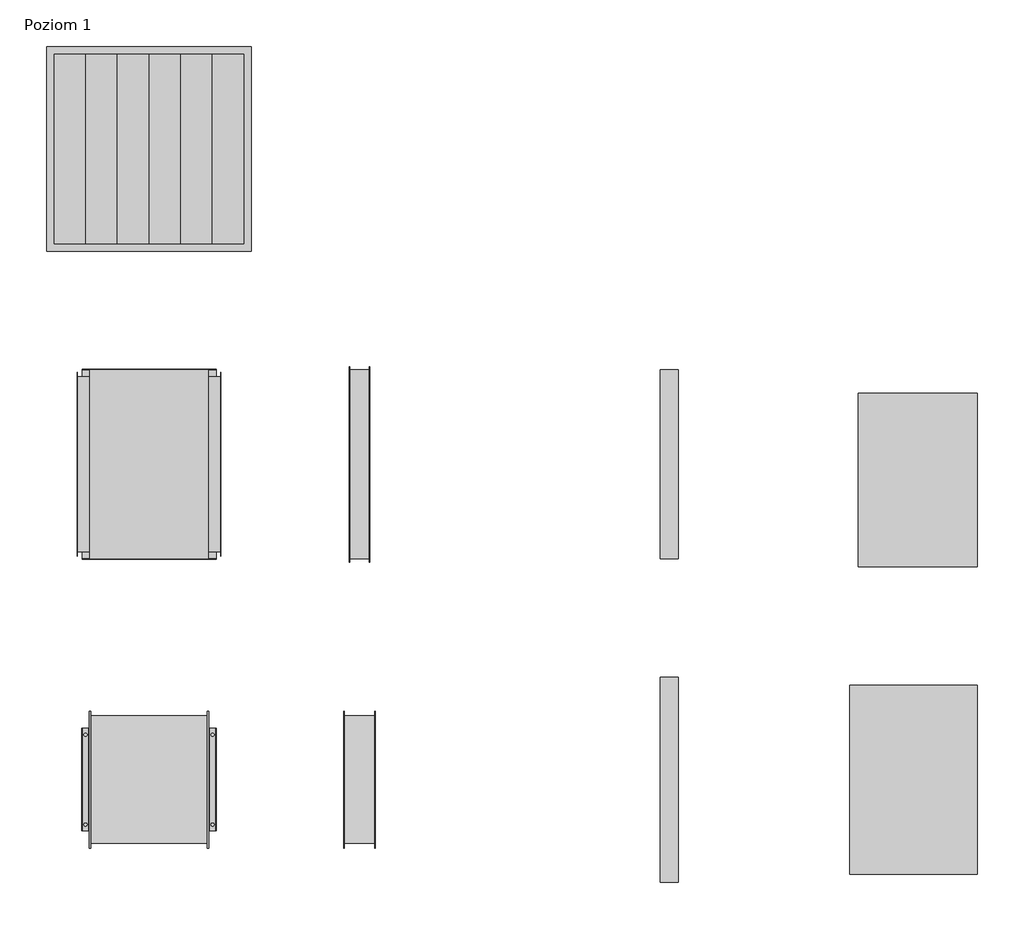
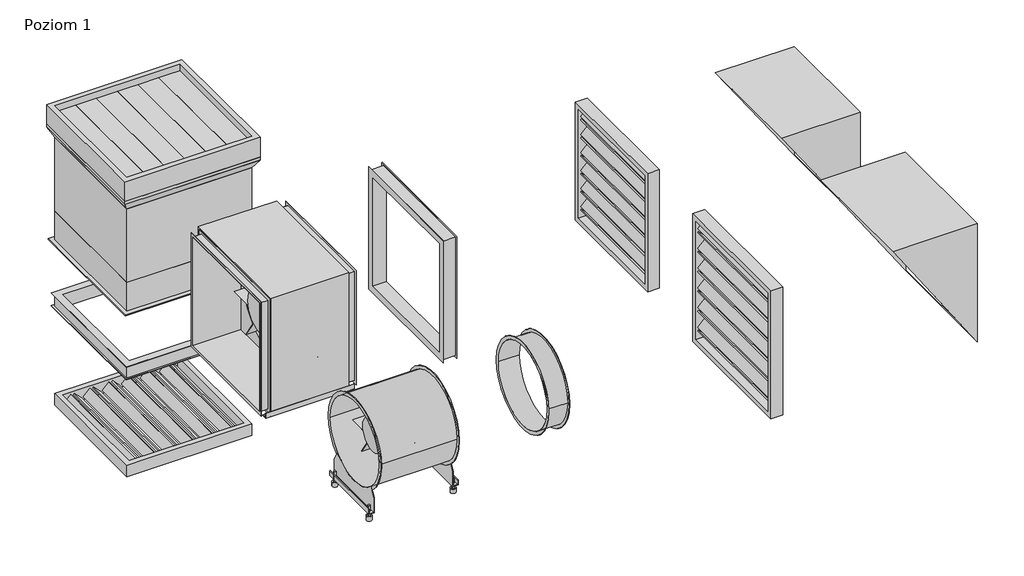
# One storey, incomplete: 5 dampers, 3 duct fittings, 3 proxies.
"""IFC4 building model written with IfcOpenShell, lengths in millimetres."""

from ifc_helpers import new_model, si_unit, origin, place, context, project, spatial, transform, mapped, element, save
from components import mechanical_equipment_a3e39775, mechanical_equipment_16e2f78e, mechanical_equipment_42d2660b, damper_6485f1b6, damper_d5a67774, damper_674d10c7, duct_fitting_7b086355, duct_fitting_f38d0a11, duct_fitting_ef36dd84

model = new_model("IFC4")

# Units and contexts
model_context = context("Model", 3, world=origin())
ifc_project = project(units=[si_unit("LENGTHUNIT", "METRE", prefix="MILLI")], contexts=[model_context])

# Site, building, storey
site = spatial("IfcSite", under=ifc_project)
building = spatial("IfcBuilding", under=site)
storey = spatial("IfcBuildingStorey", under=building, Name="Poziom 1", Elevation=0.0)

# Proxies
placement = place(None, origin())
mechanical_equipment_shape = mechanical_equipment_a3e39775(model_context)
element("IfcBuildingElementProxy", 1, Name="MERCOR - mcr EXi-F - obudowa skrzynkowa – montaż pionowy z klapą mcr LAM : mcr EXi-F 100-1S", ObjectType="MERCOR - mcr EXi-F - obudowa skrzynkowa – montaż pionowy z klapą mcr LAM : mcr EXi-F 100-1S", at=placement, inside=storey, context=model_context, shape_type="MappedRepresentation", body=[
    mapped(mechanical_equipment_shape, transform((-17136.9387308, 1768.0791322, 0.0), x_axis=(1.0, 0.0, 0.0), y_axis=(0.0, 1.0, 0.0), z_axis=(0.0, 0.0, 1.0))),
])
mechanical_equipment_2_shape = mechanical_equipment_16e2f78e(model_context)
element("IfcBuildingElementProxy", 2, Name="MERCOR - mcr EXi-F - obudowa skrzynkowa : mcr EXi-F 100-1S", ObjectType="MERCOR - mcr EXi-F - obudowa skrzynkowa : mcr EXi-F 100-1S", at=placement, inside=storey, context=model_context, shape_type="MappedRepresentation", body=[
    mapped(mechanical_equipment_2_shape, transform((-17136.9387308, -231.9208678, 0.0), x_axis=(1.0, 0.0, 0.0), y_axis=(0.0, 1.0, 0.0), z_axis=(0.0, 0.0, 1.0))),
])
mechanical_equipment_3_shape = mechanical_equipment_42d2660b(model_context)
element("IfcBuildingElementProxy", 3, Name="MERCOR - mcr EXi-F - obudowa walcowa : mcr EXi-F 80-1M", ObjectType="MERCOR - mcr EXi-F - obudowa walcowa : mcr EXi-F 80-1M", at=placement, inside=storey, context=model_context, shape_type="MappedRepresentation", body=[
    mapped(mechanical_equipment_3_shape, transform((-17136.9387308, -2231.9208678, 0.0), x_axis=(1.0, 0.0, 0.0), y_axis=(0.0, 1.0, 0.0), z_axis=(0.0, 0.0, 1.0))),
])

# Dampers
damper_shape = damper_6485f1b6(model_context)
element("IfcDamper", 4, ObjectType="MERCOR - Połączenie elastyczne do obudowy skrzynkowej : Połączenie elastyczne do układu mcr EXi-F 100-1S", at=placement, inside=storey, context=model_context, shape_type="MappedRepresentation", body=[
    mapped(damper_shape, transform((-15801.9387308, -231.9208678, 0.0), x_axis=(1.0, 0.0, 0.0), y_axis=(0.0, 1.0, 0.0), z_axis=(0.0, 0.0, 1.0))),
])
element("IfcDamper", 5, ObjectType="MERCOR - Połączenie elastyczne do obudowy skrzynkowej : Połączenie elastyczne do układu mcr EXi-F 100-1S", at=placement, inside=storey, context=model_context, shape_type="MappedRepresentation", body=[
    mapped(damper_shape, transform((-17136.9387308, 1768.0791322, -1277.5), x_axis=(0.0, 0.0, -1.0), y_axis=(0.0, 1.0, 0.0), z_axis=(1.0, 0.0, 0.0))),
])
damper_2_shape = damper_d5a67774(model_context)
element("IfcDamper", 6, ObjectType="MERCOR - Przepustnica : Przepustnica do układu mcr EXi-F 100-1S - obudowa skrzynkowa", at=placement, inside=storey, context=model_context, shape_type="MappedRepresentation", body=[
    mapped(damper_2_shape, transform((-13836.9387308, -231.9208678, 0.0), x_axis=(1.0, 0.0, 0.0), y_axis=(0.0, 1.0, 0.0), z_axis=(0.0, 0.0, 1.0))),
])
element("IfcDamper", 7, ObjectType="MERCOR - Przepustnica : Przepustnica do układu mcr EXi-F 100-1S - obudowa skrzynkowa", at=placement, inside=storey, context=model_context, shape_type="MappedRepresentation", body=[
    mapped(damper_2_shape, transform((-17136.9387308, 1768.0791322, -2287.5), x_axis=(0.0, 0.0, -1.0), y_axis=(0.0, 1.0, 0.0), z_axis=(1.0, 0.0, 0.0))),
])
damper_3_shape = damper_674d10c7(model_context)
element("IfcDamper", 8, ObjectType="MERCOR - Przepustnica : Przepustnica do układu mcr EXi-F 80-1M - obudowa walcowa", at=placement, inside=storey, context=model_context, shape_type="MappedRepresentation", body=[
    mapped(damper_3_shape, transform((-13836.9387308, -2231.9208678, 0.0), x_axis=(1.0, 0.0, 0.0), y_axis=(0.0, 1.0, 0.0), z_axis=(0.0, 0.0, 1.0))),
])

# Duct fittings
duct_fitting_shape = duct_fitting_7b086355(model_context)
element("IfcDuctFitting", 9, ObjectType="MERCOR - Czerpnia do obudowy skrzynkowej : Czerpnia do układu mcr EXi-F 100-1S", at=placement, inside=storey, context=model_context, shape_type="MappedRepresentation", body=[
    mapped(duct_fitting_shape, transform((-11881.9387308, -331.9208678, 0.0), x_axis=(1.0, 0.0, 0.0), y_axis=(0.0, 1.0, 0.0), z_axis=(0.0, 0.0, 1.0))),
])
duct_fitting_2_shape = duct_fitting_f38d0a11(model_context)
element("IfcDuctFitting", 10, ObjectType="MERCOR - Czerpnia do obudowy walcowej : Czerpnia do układu mcr EXi-F 80-1M", at=placement, inside=storey, context=model_context, shape_type="MappedRepresentation", body=[
    mapped(duct_fitting_2_shape, transform((-11881.9387308, -2231.9208678, 0.0), x_axis=(1.0, 0.0, 0.0), y_axis=(0.0, 1.0, 0.0), z_axis=(0.0, 0.0, 1.0))),
])
duct_fitting_3_shape = duct_fitting_ef36dd84(model_context)
element("IfcDuctFitting", 11, ObjectType="MERCOR - Połączenie elastyczne do obudowy walcowej : Połączenie elastyczne do układu mcr EXi-F 80-1M", at=placement, inside=storey, context=model_context, shape_type="MappedRepresentation", body=[
    mapped(duct_fitting_3_shape, transform((-15801.9387308, -2231.9208678, 0.0), x_axis=(1.0, 0.0, 0.0), y_axis=(0.0, 1.0, 0.0), z_axis=(0.0, 0.0, 1.0))),
])

save(model, "model.ifc")
